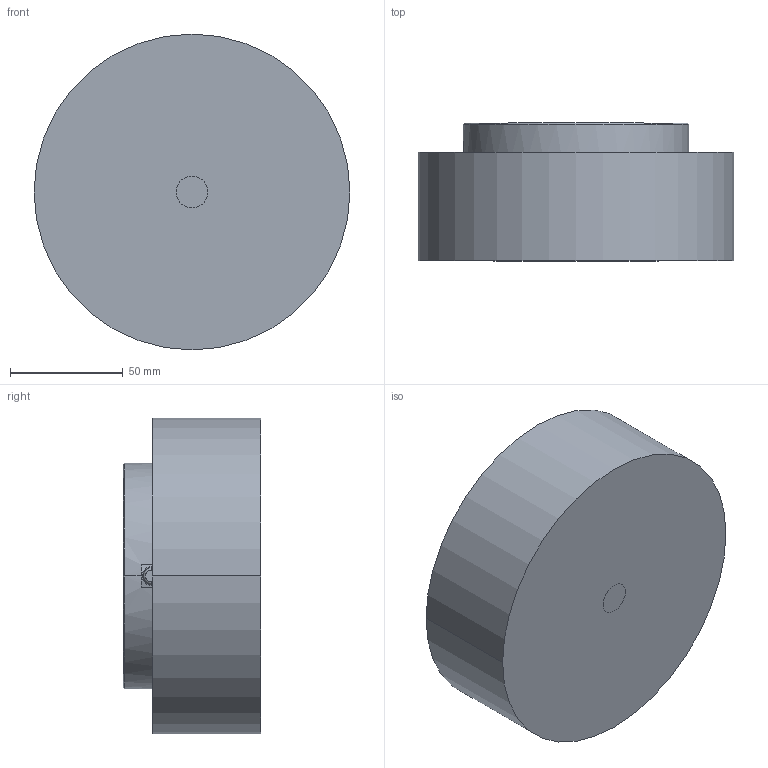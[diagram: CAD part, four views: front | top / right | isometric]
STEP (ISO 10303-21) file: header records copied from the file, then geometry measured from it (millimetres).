
FILE_DESCRIPTION((''),'2;1');
FILE_NAME('S34N101.stp','2020-09-17T15:16:47',(''),(''),'AutoCAD STEP 2000i','AutoCAD 2000i',', , ');
FILE_SCHEMA(('CONFIG_CONTROL_DESIGN'));
Length unit declared in the file: millimetre
Products named in the file (4): DRAWING1; MOLD BODY N34; NOZZLE S101N34; RING 34-2018
Assembly tree (3 placements, depth 2):
  DRAWING1
    MOLD BODY N34
    NOZZLE S101N34
    RING 34-2018
Bounding box: 140 x 61 x 140 mm (x, y, z)
Volume: 824231.4 mm3; surface area: 87415.8 mm2
Topology: 3 solids, 3 shells, 144 faces, 343 edges, 217 vertices
Faces by surface type: cylinder 58, cone 38, plane 26, bspline 12, torus 10
Entity records: 4817 total; most frequent: CARTESIAN_POINT 1189, DIRECTION 829, ORIENTED_EDGE 682, AXIS2_PLACEMENT_3D 360, EDGE_CURVE 341, CIRCLE 224, VERTEX_POINT 217, EDGE_LOOP 170
